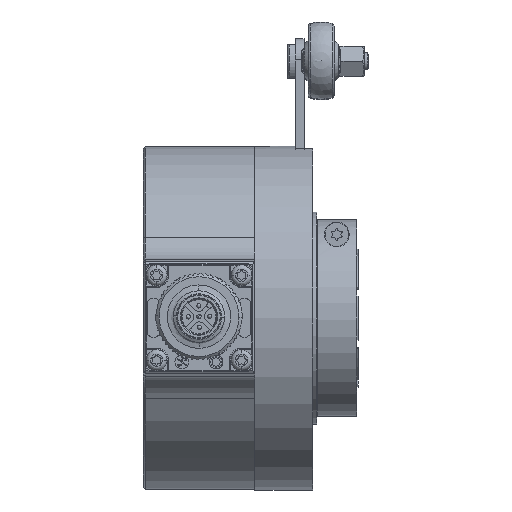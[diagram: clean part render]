
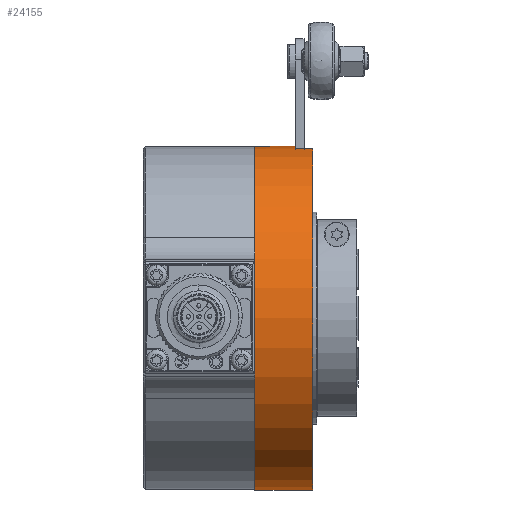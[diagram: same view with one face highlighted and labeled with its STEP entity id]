
A CAD part, top view. The second image highlights one B-rep face of the part: STEP entity #24155.
In plain terms, the highlighted cylindrical face has radius 40.075 mm (diameter 80.15 mm), a partial arc.
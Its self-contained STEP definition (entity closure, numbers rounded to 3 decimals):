
#1356 = AXIS2_PLACEMENT_3D ( 'NONE', #46103, #5697, #46703 ) ;
#2243 = DIRECTION ( 'NONE',  ( 0., 1., 0. ) ) ;
#2555 = EDGE_CURVE ( 'NONE', #28709, #28206, #18363, .T. ) ;
#4143 = VERTEX_POINT ( 'NONE', #6738 ) ;
#5021 = LINE ( 'NONE', #46329, #11835 ) ;
#5697 = DIRECTION ( 'NONE',  ( -1., 0., 0. ) ) ;
#6404 = VECTOR ( 'NONE', #35451, 1000. ) ;
#6738 = CARTESIAN_POINT ( 'NONE',  ( 13.5, -40.075, 0. ) ) ;
#8645 = LINE ( 'NONE', #40013, #48149 ) ;
#10089 = CARTESIAN_POINT ( 'NONE',  ( 13.5, 39.468, 6.95 ) ) ;
#11835 = VECTOR ( 'NONE', #27326, 1000. ) ;
#16300 = AXIS2_PLACEMENT_3D ( 'NONE', #51398, #28470, #23933 ) ;
#18363 = CIRCLE ( 'NONE', #45317, 40.075 ) ;
#22788 = CARTESIAN_POINT ( 'NONE',  ( 9.5, 40.075, 0. ) ) ;
#22997 = CIRCLE ( 'NONE', #49072, 40.075 ) ;
#23400 = DIRECTION ( 'NONE',  ( -1., 0., 0. ) ) ;
#23933 = DIRECTION ( 'NONE',  ( 0., 1., 0. ) ) ;
#24155 = ADVANCED_FACE ( 'NONE', ( #55920 ), #29061, .T. ) ;
#24795 = ORIENTED_EDGE ( 'NONE', *, *, #36355, .T. ) ;
#24884 = CARTESIAN_POINT ( 'NONE',  ( -12.775, -40.075, 0. ) ) ;
#27326 = DIRECTION ( 'NONE',  ( -1., 0., 0. ) ) ;
#27327 = CIRCLE ( 'NONE', #1356, 40.075 ) ;
#28124 = EDGE_LOOP ( 'NONE', ( #42172, #48228, #43483, #24795, #52654, #32649 ) ) ;
#28206 = VERTEX_POINT ( 'NONE', #48439 ) ;
#28470 = DIRECTION ( 'NONE',  ( -1., 0., 0. ) ) ;
#28709 = VERTEX_POINT ( 'NONE', #48175 ) ;
#29061 = CYLINDRICAL_SURFACE ( 'NONE', #16300, 40.075 ) ;
#29821 = VERTEX_POINT ( 'NONE', #35204 ) ;
#29973 = DIRECTION ( 'NONE',  ( -1., 0., 0. ) ) ;
#30568 = CARTESIAN_POINT ( 'NONE',  ( 13.5, 0., 0. ) ) ;
#32649 = ORIENTED_EDGE ( 'NONE', *, *, #2555, .F. ) ;
#33980 = EDGE_CURVE ( 'NONE', #47954, #29821, #5021, .T. ) ;
#35204 = CARTESIAN_POINT ( 'NONE',  ( 9.5, 39.468, 6.95 ) ) ;
#35451 = DIRECTION ( 'NONE',  ( -1., 0., 0. ) ) ;
#36355 = EDGE_CURVE ( 'NONE', #29821, #39243, #27327, .T. ) ;
#39243 = VERTEX_POINT ( 'NONE', #22788 ) ;
#40013 = CARTESIAN_POINT ( 'NONE',  ( -12.775, 40.075, 0. ) ) ;
#42172 = ORIENTED_EDGE ( 'NONE', *, *, #53536, .F. ) ;
#42946 = EDGE_CURVE ( 'NONE', #4143, #47954, #22997, .T. ) ;
#43483 = ORIENTED_EDGE ( 'NONE', *, *, #33980, .T. ) ;
#45317 = AXIS2_PLACEMENT_3D ( 'NONE', #46344, #23400, #51180 ) ;
#45387 = EDGE_CURVE ( 'NONE', #39243, #28206, #8645, .T. ) ;
#46103 = CARTESIAN_POINT ( 'NONE',  ( 9.5, 0., 0. ) ) ;
#46329 = CARTESIAN_POINT ( 'NONE',  ( -12.775, 39.468, 6.95 ) ) ;
#46344 = CARTESIAN_POINT ( 'NONE',  ( 0., 0., 0. ) ) ;
#46703 = DIRECTION ( 'NONE',  ( 0., 1., 0. ) ) ;
#47954 = VERTEX_POINT ( 'NONE', #10089 ) ;
#48149 = VECTOR ( 'NONE', #54479, 1000. ) ;
#48175 = CARTESIAN_POINT ( 'NONE',  ( 0., -40.075, 0. ) ) ;
#48228 = ORIENTED_EDGE ( 'NONE', *, *, #42946, .T. ) ;
#48439 = CARTESIAN_POINT ( 'NONE',  ( 0., 40.075, 0. ) ) ;
#49072 = AXIS2_PLACEMENT_3D ( 'NONE', #30568, #29973, #2243 ) ;
#51180 = DIRECTION ( 'NONE',  ( 0., 1., 0. ) ) ;
#51398 = CARTESIAN_POINT ( 'NONE',  ( -12.775, 0., 0. ) ) ;
#52654 = ORIENTED_EDGE ( 'NONE', *, *, #45387, .T. ) ;
#53237 = LINE ( 'NONE', #24884, #6404 ) ;
#53536 = EDGE_CURVE ( 'NONE', #4143, #28709, #53237, .T. ) ;
#54479 = DIRECTION ( 'NONE',  ( -1., 0., 0. ) ) ;
#55920 = FACE_OUTER_BOUND ( 'NONE', #28124, .T. ) ;
